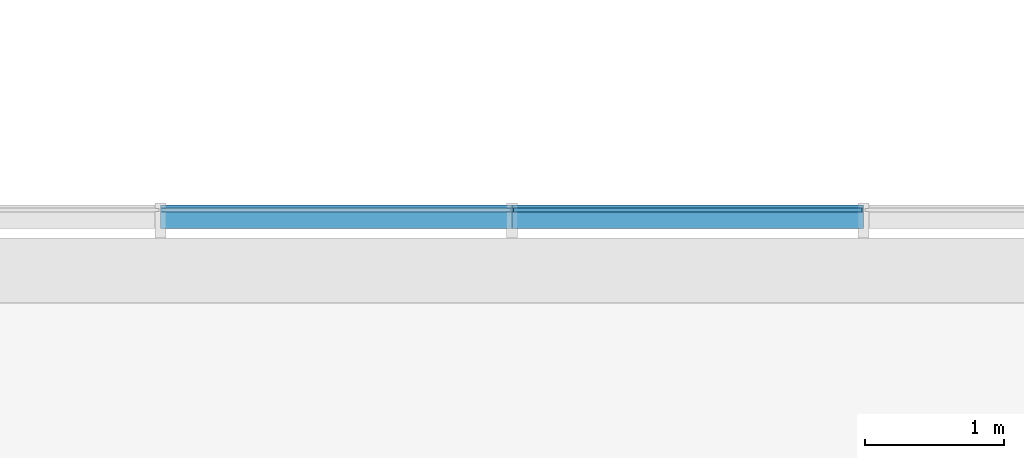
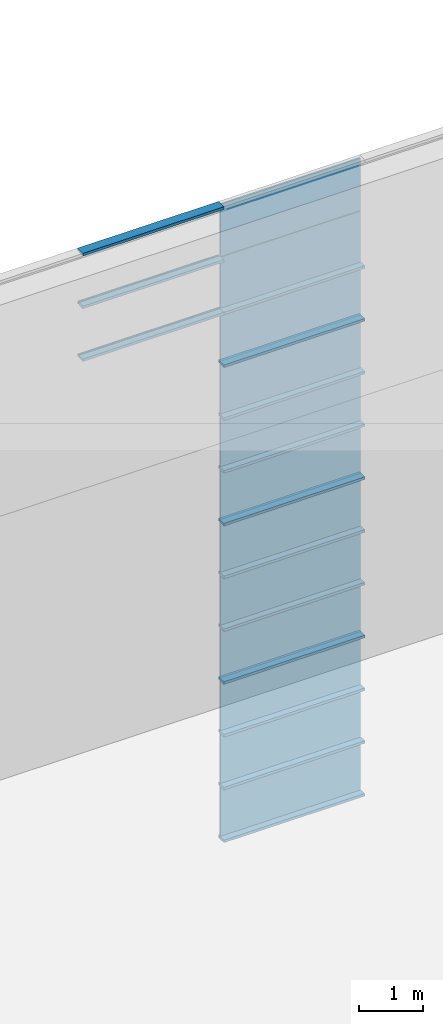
# One storey, part 51 of 105: 29 building element parts, 4 elements without a shape of their own.
"""IFC4 building model written with IfcOpenShell, lengths in millimetres."""

from ifc_helpers import new_model, entity, si_unit, converted_unit, derived_unit, direction, frame, origin_with_axes, place, context, subcontext, project, spatial, triangles, material, element, aggregate, save


model = new_model("IFC4")

# Units and contexts
model_context = context("Model", 3, precision=1e-05, world=origin_with_axes(), true_north=direction((0.0, 1.0)))
body_context = subcontext(model_context, "Body", "Model", "MODEL_VIEW")
ifc_project = project(units=[si_unit("LENGTHUNIT", "METRE", prefix="MILLI"), si_unit("AREAUNIT", "SQUARE_METRE"), si_unit("VOLUMEUNIT", "CUBIC_METRE"), converted_unit("PLANEANGLEUNIT", "DEGREE", entity("IfcLengthMeasure", 0.017453), si_unit("PLANEANGLEUNIT", "RADIAN"), dimensions=[0, 0, 0, 0, 0, 0, 0]), si_unit("SOLIDANGLEUNIT", "STERADIAN"), si_unit("MASSUNIT", "GRAM"), si_unit("TIMEUNIT", "SECOND"), si_unit("THERMODYNAMICTEMPERATUREUNIT", "DEGREE_CELSIUS"), si_unit("LUMINOUSINTENSITYUNIT", "LUMEN"), si_unit("POWERUNIT", "WATT"), derived_unit("THERMALTRANSMITTANCEUNIT", [(si_unit("POWERUNIT", "WATT"), 1), (si_unit("THERMODYNAMICTEMPERATUREUNIT", "KELVIN"), -1), (si_unit("AREAUNIT", "SQUARE_METRE"), -1)])], contexts=[model_context])

# Site, building, storey
site_placement = place(None, origin_with_axes())
site = spatial("IfcSite", under=ifc_project, at=site_placement, Name="Default Site", CompositionType="ELEMENT")
building_placement = place(site_placement, origin_with_axes())
building = spatial("IfcBuilding", under=site, at=building_placement, Name="Default Building", CompositionType="ELEMENT")
storey_placement = place(building_placement, origin_with_axes())
storey = spatial("IfcBuildingStorey", under=building, at=storey_placement, Name="OG - Story", CompositionType="ELEMENT", Elevation=0.0)

# Curtain wall, building element parts
curtain_wall_1_placement = place(storey_placement, origin_with_axes())
curtain_wall_1 = element("IfcCurtainWall", 1, at=curtain_wall_1_placement, inside=storey, Name="Fassade-004", PredefinedType="NOTDEFINED")
ifc_material_1 = material(Name="Normalglas")
building_element_part_1_placement = place(curtain_wall_1_placement, frame((33014.549222, -4389.262838, 0.0), z_axis=(0.0, 0.0, 1.0), x_axis=(1.0, 0.0, 0.0)))
building_element_part_1 = element("IfcBuildingElementPart", 2, at=building_element_part_1_placement, material=ifc_material_1, Name="Normalglas", PredefinedType="NOTDEFINED", context=body_context, shape_type="Tessellation", body=[
    triangles([(31568.947, -14.999, 995.0), (31568.947, 15.0, 995.0), (29062.632, 15.0, 995.0), (29062.632, -14.999, 995.0), (31568.947, -14.999, 5.0), (31568.947, 15.0, 5.0), (29062.632, 15.0, 5.0), (29062.632, -14.999, 5.0)], [[1, 2, 3], [1, 3, 4], [5, 6, 2], [5, 2, 1], [2, 6, 7], [2, 7, 3], [4, 3, 7], [4, 7, 8], [1, 4, 8], [1, 8, 5], [8, 7, 6], [8, 6, 5]], closed=False),
])
building_element_part_2_placement = place(curtain_wall_1_placement, frame((33014.549222, -4389.262838, 0.0), z_axis=(0.0, 0.0, 1.0), x_axis=(1.0, 0.0, 0.0)))
building_element_part_2 = element("IfcBuildingElementPart", 3, at=building_element_part_2_placement, material=ifc_material_1, Name="Normalglas", PredefinedType="NOTDEFINED", context=body_context, shape_type="Tessellation", body=[
    triangles([(31568.947, -14.999, 1995.0), (31568.947, 15.0, 1995.0), (29062.632, 15.0, 1995.0), (29062.632, -14.999, 1995.0), (31568.947, -14.999, 1005.0), (31568.947, 15.0, 1005.0), (29062.632, 15.0, 1005.0), (29062.632, -14.999, 1005.0)], [[1, 2, 3], [1, 3, 4], [5, 6, 2], [5, 2, 1], [2, 6, 7], [2, 7, 3], [4, 3, 7], [4, 7, 8], [1, 4, 8], [1, 8, 5], [8, 7, 6], [8, 6, 5]], closed=False),
])
building_element_part_3_placement = place(curtain_wall_1_placement, frame((33014.549222, -4389.262838, 0.0), z_axis=(0.0, 0.0, 1.0), x_axis=(1.0, 0.0, 0.0)))
building_element_part_3 = element("IfcBuildingElementPart", 4, at=building_element_part_3_placement, material=ifc_material_1, Name="Normalglas", PredefinedType="NOTDEFINED", context=body_context, shape_type="Tessellation", body=[
    triangles([(31568.947, -14.999, 2995.0), (31568.947, 15.0, 2995.0), (29062.632, 15.0, 2995.0), (29062.632, -14.999, 2995.0), (31568.947, -14.999, 2005.0), (31568.947, 15.0, 2005.0), (29062.632, 15.0, 2005.0), (29062.632, -14.999, 2005.0)], [[1, 2, 3], [1, 3, 4], [5, 6, 2], [5, 2, 1], [2, 6, 7], [2, 7, 3], [4, 3, 7], [4, 7, 8], [1, 4, 8], [1, 8, 5], [8, 7, 6], [8, 6, 5]], closed=False),
])
ifc_material_2 = material(Name="Blech")
building_element_part_4_placement = place(curtain_wall_1_placement, frame((33014.549222, -4389.262838, 0.0), z_axis=(0.0, 0.0, 1.0), x_axis=(1.0, 0.0, 0.0)))
building_element_part_4 = element("IfcBuildingElementPart", 5, at=building_element_part_4_placement, material=ifc_material_2, Name="Blech", PredefinedType="NOTDEFINED", context=body_context, shape_type="Tessellation", body=[
    triangles([(31578.947, 35.0, -24.999), (31578.947, 35.0, 25.0), (31578.947, 15.0, 25.0), (31578.947, 15.0, 5.0), (31578.947, -14.999, 5.0), (31578.947, -132.999, 25.0), (31578.947, -132.999, -24.999), (31578.947, -14.999, 25.0), (29052.632, -14.999, 5.0), (29052.632, -14.999, 25.0), (29052.632, -132.999, 25.0), (29052.632, -132.999, -24.999), (29052.632, 35.0, -24.999), (29052.632, 35.0, 25.0), (29052.632, 15.0, 25.0), (29052.632, 15.0, 5.0)], [[1, 2, 3], [1, 3, 4], [1, 4, 5], [1, 5, 6], [1, 6, 7], [8, 6, 5], [5, 9, 10], [5, 10, 8], [10, 11, 6], [10, 6, 8], [11, 12, 7], [11, 7, 6], [12, 13, 1], [12, 1, 7], [13, 14, 2], [13, 2, 1], [3, 2, 14], [3, 14, 15], [15, 16, 4], [15, 4, 3], [4, 16, 9], [4, 9, 5], [15, 16, 13], [13, 16, 9], [13, 9, 11], [11, 9, 10], [13, 11, 12], [15, 13, 14]], closed=False),
])
building_element_part_5_placement = place(curtain_wall_1_placement, frame((33014.549222, -4389.262838, 0.0), z_axis=(0.0, 0.0, 1.0), x_axis=(1.0, 0.0, 0.0)))
building_element_part_5 = element("IfcBuildingElementPart", 6, at=building_element_part_5_placement, material=ifc_material_2, Name="Blech", PredefinedType="NOTDEFINED", context=body_context, shape_type="Tessellation", body=[
    triangles([(31578.947, 35.0, 975.0), (31578.947, 15.0, 975.0), (31578.947, 35.0, 1025.0), (31578.947, 15.0, 995.0), (31578.947, 15.0, 1005.0), (31578.947, -14.999, 995.0), (31578.947, -14.999, 1005.0), (31578.947, -14.999, 1025.0), (31578.947, -14.999, 975.0), (31578.947, -132.999, 975.0), (31578.947, -132.999, 1025.0), (31578.947, 15.0, 1025.0), (29052.632, -14.999, 995.0), (29052.632, 15.0, 995.0), (29052.632, 15.0, 975.0), (29052.632, 35.0, 975.0), (29052.632, 35.0, 1025.0), (29052.632, 15.0, 1025.0), (29052.632, 15.0, 1005.0), (29052.632, -14.999, 1005.0), (29052.632, -14.999, 1025.0), (29052.632, -132.999, 1025.0), (29052.632, -132.999, 975.0), (29052.632, -14.999, 975.0)], [[1, 2, 3], [3, 2, 4], [3, 4, 5], [5, 4, 6], [5, 6, 7], [8, 9, 10], [8, 10, 11], [3, 5, 12], [6, 13, 14], [6, 14, 4], [4, 14, 15], [4, 15, 2], [15, 16, 1], [15, 1, 2], [1, 16, 17], [1, 17, 3], [18, 12, 3], [18, 3, 17], [12, 18, 19], [12, 19, 5], [7, 5, 19], [7, 19, 20], [8, 7, 20], [8, 20, 21], [8, 21, 22], [8, 22, 11], [11, 22, 23], [11, 23, 10], [9, 10, 23], [9, 23, 24], [9, 24, 13], [9, 13, 6], [17, 18, 16], [16, 18, 19], [16, 19, 14], [14, 19, 20], [14, 20, 13], [24, 21, 22], [24, 22, 23], [16, 14, 15]], closed=False),
])
building_element_part_6_placement = place(curtain_wall_1_placement, frame((33014.549222, -4389.262838, 0.0), z_axis=(0.0, 0.0, 1.0), x_axis=(1.0, 0.0, 0.0)))
building_element_part_6 = element("IfcBuildingElementPart", 7, at=building_element_part_6_placement, material=ifc_material_2, Name="Blech", PredefinedType="NOTDEFINED", context=body_context, shape_type="Tessellation", body=[
    triangles([(31578.947, 35.0, 1975.0), (31578.947, 15.0, 1975.0), (31578.947, 35.0, 2025.0), (31578.947, 15.0, 1995.0), (31578.947, 15.0, 2005.0), (31578.947, -14.999, 1995.0), (31578.947, -14.999, 2005.0), (31578.947, -14.999, 2025.0), (31578.947, -14.999, 1975.0), (31578.947, -132.999, 1975.0), (31578.947, -132.999, 2025.0), (31578.947, 15.0, 2025.0), (29052.632, -14.999, 1995.0), (29052.632, 15.0, 1995.0), (29052.632, 15.0, 1975.0), (29052.632, 35.0, 1975.0), (29052.632, 35.0, 2025.0), (29052.632, 15.0, 2025.0), (29052.632, 15.0, 2005.0), (29052.632, -14.999, 2005.0), (29052.632, -14.999, 2025.0), (29052.632, -132.999, 2025.0), (29052.632, -132.999, 1975.0), (29052.632, -14.999, 1975.0)], [[1, 2, 3], [3, 2, 4], [3, 4, 5], [5, 4, 6], [5, 6, 7], [8, 9, 10], [8, 10, 11], [3, 5, 12], [6, 13, 14], [6, 14, 4], [4, 14, 15], [4, 15, 2], [15, 16, 1], [15, 1, 2], [1, 16, 17], [1, 17, 3], [18, 12, 3], [18, 3, 17], [12, 18, 19], [12, 19, 5], [7, 5, 19], [7, 19, 20], [8, 7, 20], [8, 20, 21], [8, 21, 22], [8, 22, 11], [11, 22, 23], [11, 23, 10], [9, 10, 23], [9, 23, 24], [9, 24, 13], [9, 13, 6], [17, 18, 16], [16, 18, 19], [16, 19, 14], [14, 19, 20], [14, 20, 13], [24, 21, 22], [24, 22, 23], [16, 14, 15]], closed=False),
])
building_element_part_7_placement = place(curtain_wall_1_placement, frame((33014.549222, -4389.262838, 0.0), z_axis=(0.0, 0.0, 1.0), x_axis=(1.0, 0.0, 0.0)))
building_element_part_7 = element("IfcBuildingElementPart", 8, at=building_element_part_7_placement, material=ifc_material_2, Name="Blech", PredefinedType="NOTDEFINED", context=body_context, shape_type="Tessellation", body=[
    triangles([(31578.947, 15.0, 2975.0), (31578.947, 15.0, 2995.0), (31578.947, 35.0, 3025.0), (31578.947, -14.999, 2995.0), (31578.947, -132.999, 2975.0), (31578.947, -14.999, 2975.0), (31578.947, -132.999, 3025.0), (31578.947, 35.0, 2975.0), (29052.632, -14.999, 2995.0), (29052.632, 15.0, 2995.0), (29052.632, 15.0, 2975.0), (29052.632, 35.0, 2975.0), (29052.632, 35.0, 3025.0), (29052.632, -132.999, 3025.0), (29052.632, -132.999, 2975.0), (29052.632, -14.999, 2975.0)], [[1, 2, 3], [3, 2, 4], [3, 4, 5], [5, 4, 6], [3, 5, 7], [1, 3, 8], [2, 4, 9], [2, 9, 10], [11, 1, 2], [11, 2, 10], [1, 11, 12], [1, 12, 8], [13, 3, 8], [13, 8, 12], [14, 7, 3], [14, 3, 13], [15, 5, 7], [15, 7, 14], [16, 6, 5], [16, 5, 15], [4, 6, 16], [4, 16, 9], [13, 12, 11], [13, 11, 10], [13, 10, 9], [13, 9, 15], [13, 15, 14], [16, 15, 9]], closed=False),
])
aggregate(curtain_wall_1, [building_element_part_1, building_element_part_2, building_element_part_3, building_element_part_4, building_element_part_5, building_element_part_6, building_element_part_7])

curtain_wall_2_placement = place(storey_placement, origin_with_axes())
curtain_wall_2 = element("IfcCurtainWall", 9, at=curtain_wall_2_placement, inside=storey, Name="Fassade-004", PredefinedType="NOTDEFINED")
building_element_part_8_placement = place(curtain_wall_2_placement, frame((33014.549222, -4389.262838, 3000.0), z_axis=(0.0, 0.0, 1.0), x_axis=(1.0, 0.0, 0.0)))
building_element_part_8 = element("IfcBuildingElementPart", 10, at=building_element_part_8_placement, material=ifc_material_1, Name="Normalglas", PredefinedType="NOTDEFINED", context=body_context, shape_type="Tessellation", body=[
    triangles([(31568.947, -14.999, 995.0), (31568.947, 15.0, 995.0), (29062.632, 15.0, 995.0), (29062.632, -14.999, 995.0), (31568.947, -14.999, 5.0), (31568.947, 15.0, 5.0), (29062.632, 15.0, 5.0), (29062.632, -14.999, 5.0)], [[1, 2, 3], [1, 3, 4], [5, 6, 2], [5, 2, 1], [2, 6, 7], [2, 7, 3], [4, 3, 7], [4, 7, 8], [1, 4, 8], [1, 8, 5], [8, 7, 6], [8, 6, 5]], closed=False),
])
building_element_part_9_placement = place(curtain_wall_2_placement, frame((33014.549222, -4389.262838, 3000.0), z_axis=(0.0, 0.0, 1.0), x_axis=(1.0, 0.0, 0.0)))
building_element_part_9 = element("IfcBuildingElementPart", 11, at=building_element_part_9_placement, material=ifc_material_1, Name="Normalglas", PredefinedType="NOTDEFINED", context=body_context, shape_type="Tessellation", body=[
    triangles([(31568.947, -14.999, 1995.0), (31568.947, 15.0, 1995.0), (29062.632, 15.0, 1995.0), (29062.632, -14.999, 1995.0), (31568.947, -14.999, 1005.0), (31568.947, 15.0, 1005.0), (29062.632, 15.0, 1005.0), (29062.632, -14.999, 1005.0)], [[1, 2, 3], [1, 3, 4], [5, 6, 2], [5, 2, 1], [2, 6, 7], [2, 7, 3], [4, 3, 7], [4, 7, 8], [1, 4, 8], [1, 8, 5], [8, 7, 6], [8, 6, 5]], closed=False),
])
building_element_part_10_placement = place(curtain_wall_2_placement, frame((33014.549222, -4389.262838, 3000.0), z_axis=(0.0, 0.0, 1.0), x_axis=(1.0, 0.0, 0.0)))
building_element_part_10 = element("IfcBuildingElementPart", 12, at=building_element_part_10_placement, material=ifc_material_1, Name="Normalglas", PredefinedType="NOTDEFINED", context=body_context, shape_type="Tessellation", body=[
    triangles([(31568.947, -14.999, 2995.0), (31568.947, 15.0, 2995.0), (29062.632, 15.0, 2995.0), (29062.632, -14.999, 2995.0), (31568.947, -14.999, 2005.0), (31568.947, 15.0, 2005.0), (29062.632, 15.0, 2005.0), (29062.632, -14.999, 2005.0)], [[1, 2, 3], [1, 3, 4], [5, 6, 2], [5, 2, 1], [2, 6, 7], [2, 7, 3], [4, 3, 7], [4, 7, 8], [1, 4, 8], [1, 8, 5], [8, 7, 6], [8, 6, 5]], closed=False),
])
building_element_part_11_placement = place(curtain_wall_2_placement, frame((33014.549222, -4389.262838, 3000.0), z_axis=(0.0, 0.0, 1.0), x_axis=(1.0, 0.0, 0.0)))
building_element_part_11 = element("IfcBuildingElementPart", 13, at=building_element_part_11_placement, material=ifc_material_2, Name="Blech", PredefinedType="NOTDEFINED", context=body_context, shape_type="Tessellation", body=[
    triangles([(31578.947, 35.0, -24.999), (31578.947, 35.0, 25.0), (31578.947, 15.0, 25.0), (31578.947, 15.0, 5.0), (31578.947, -14.999, 5.0), (31578.947, -132.999, 25.0), (31578.947, -132.999, -24.999), (31578.947, -14.999, 25.0), (29052.632, -14.999, 5.0), (29052.632, -14.999, 25.0), (29052.632, -132.999, 25.0), (29052.632, -132.999, -24.999), (29052.632, 35.0, -24.999), (29052.632, 35.0, 25.0), (29052.632, 15.0, 25.0), (29052.632, 15.0, 5.0)], [[1, 2, 3], [1, 3, 4], [1, 4, 5], [1, 5, 6], [1, 6, 7], [8, 6, 5], [5, 9, 10], [5, 10, 8], [10, 11, 6], [10, 6, 8], [11, 12, 7], [11, 7, 6], [12, 13, 1], [12, 1, 7], [13, 14, 2], [13, 2, 1], [3, 2, 14], [3, 14, 15], [15, 16, 4], [15, 4, 3], [4, 16, 9], [4, 9, 5], [15, 16, 13], [13, 16, 9], [13, 9, 11], [11, 9, 10], [13, 11, 12], [15, 13, 14]], closed=False),
])
building_element_part_12_placement = place(curtain_wall_2_placement, frame((33014.549222, -4389.262838, 3000.0), z_axis=(0.0, 0.0, 1.0), x_axis=(1.0, 0.0, 0.0)))
building_element_part_12 = element("IfcBuildingElementPart", 14, at=building_element_part_12_placement, material=ifc_material_2, Name="Blech", PredefinedType="NOTDEFINED", context=body_context, shape_type="Tessellation", body=[
    triangles([(31578.947, 35.0, 975.0), (31578.947, 15.0, 975.0), (31578.947, 35.0, 1025.0), (31578.947, 15.0, 995.0), (31578.947, 15.0, 1005.0), (31578.947, -14.999, 995.0), (31578.947, -14.999, 1005.0), (31578.947, -14.999, 1025.0), (31578.947, -14.999, 975.0), (31578.947, -132.999, 975.0), (31578.947, -132.999, 1025.0), (31578.947, 15.0, 1025.0), (29052.632, -14.999, 995.0), (29052.632, 15.0, 995.0), (29052.632, 15.0, 975.0), (29052.632, 35.0, 975.0), (29052.632, 35.0, 1025.0), (29052.632, 15.0, 1025.0), (29052.632, 15.0, 1005.0), (29052.632, -14.999, 1005.0), (29052.632, -14.999, 1025.0), (29052.632, -132.999, 1025.0), (29052.632, -132.999, 975.0), (29052.632, -14.999, 975.0)], [[1, 2, 3], [3, 2, 4], [3, 4, 5], [5, 4, 6], [5, 6, 7], [8, 9, 10], [8, 10, 11], [3, 5, 12], [6, 13, 14], [6, 14, 4], [4, 14, 15], [4, 15, 2], [15, 16, 1], [15, 1, 2], [1, 16, 17], [1, 17, 3], [18, 12, 3], [18, 3, 17], [12, 18, 19], [12, 19, 5], [7, 5, 19], [7, 19, 20], [8, 7, 20], [8, 20, 21], [8, 21, 22], [8, 22, 11], [11, 22, 23], [11, 23, 10], [9, 10, 23], [9, 23, 24], [9, 24, 13], [9, 13, 6], [17, 18, 16], [16, 18, 19], [16, 19, 14], [14, 19, 20], [14, 20, 13], [24, 21, 22], [24, 22, 23], [16, 14, 15]], closed=False),
])
building_element_part_13_placement = place(curtain_wall_2_placement, frame((33014.549222, -4389.262838, 3000.0), z_axis=(0.0, 0.0, 1.0), x_axis=(1.0, 0.0, 0.0)))
building_element_part_13 = element("IfcBuildingElementPart", 15, at=building_element_part_13_placement, material=ifc_material_2, Name="Blech", PredefinedType="NOTDEFINED", context=body_context, shape_type="Tessellation", body=[
    triangles([(31578.947, 35.0, 1975.0), (31578.947, 15.0, 1975.0), (31578.947, 35.0, 2025.0), (31578.947, 15.0, 1995.0), (31578.947, 15.0, 2005.0), (31578.947, -14.999, 1995.0), (31578.947, -14.999, 2005.0), (31578.947, -14.999, 2025.0), (31578.947, -14.999, 1975.0), (31578.947, -132.999, 1975.0), (31578.947, -132.999, 2025.0), (31578.947, 15.0, 2025.0), (29052.632, -14.999, 1995.0), (29052.632, 15.0, 1995.0), (29052.632, 15.0, 1975.0), (29052.632, 35.0, 1975.0), (29052.632, 35.0, 2025.0), (29052.632, 15.0, 2025.0), (29052.632, 15.0, 2005.0), (29052.632, -14.999, 2005.0), (29052.632, -14.999, 2025.0), (29052.632, -132.999, 2025.0), (29052.632, -132.999, 1975.0), (29052.632, -14.999, 1975.0)], [[1, 2, 3], [3, 2, 4], [3, 4, 5], [5, 4, 6], [5, 6, 7], [8, 9, 10], [8, 10, 11], [3, 5, 12], [6, 13, 14], [6, 14, 4], [4, 14, 15], [4, 15, 2], [15, 16, 1], [15, 1, 2], [1, 16, 17], [1, 17, 3], [18, 12, 3], [18, 3, 17], [12, 18, 19], [12, 19, 5], [7, 5, 19], [7, 19, 20], [8, 7, 20], [8, 20, 21], [8, 21, 22], [8, 22, 11], [11, 22, 23], [11, 23, 10], [9, 10, 23], [9, 23, 24], [9, 24, 13], [9, 13, 6], [17, 18, 16], [16, 18, 19], [16, 19, 14], [14, 19, 20], [14, 20, 13], [24, 21, 22], [24, 22, 23], [16, 14, 15]], closed=False),
])
building_element_part_14_placement = place(curtain_wall_2_placement, frame((33014.549222, -4389.262838, 3000.0), z_axis=(0.0, 0.0, 1.0), x_axis=(1.0, 0.0, 0.0)))
building_element_part_14 = element("IfcBuildingElementPart", 16, at=building_element_part_14_placement, material=ifc_material_2, Name="Blech", PredefinedType="NOTDEFINED", context=body_context, shape_type="Tessellation", body=[
    triangles([(31578.947, 15.0, 2975.0), (31578.947, 15.0, 2995.0), (31578.947, 35.0, 3025.0), (31578.947, -14.999, 2995.0), (31578.947, -132.999, 2975.0), (31578.947, -14.999, 2975.0), (31578.947, -132.999, 3025.0), (31578.947, 35.0, 2975.0), (29052.632, -14.999, 2995.0), (29052.632, 15.0, 2995.0), (29052.632, 15.0, 2975.0), (29052.632, 35.0, 2975.0), (29052.632, 35.0, 3025.0), (29052.632, -132.999, 3025.0), (29052.632, -132.999, 2975.0), (29052.632, -14.999, 2975.0)], [[1, 2, 3], [3, 2, 4], [3, 4, 5], [5, 4, 6], [3, 5, 7], [1, 3, 8], [2, 4, 9], [2, 9, 10], [11, 1, 2], [11, 2, 10], [1, 11, 12], [1, 12, 8], [13, 3, 8], [13, 8, 12], [14, 7, 3], [14, 3, 13], [15, 5, 7], [15, 7, 14], [16, 6, 5], [16, 5, 15], [4, 6, 16], [4, 16, 9], [13, 12, 11], [13, 11, 10], [13, 10, 9], [13, 9, 15], [13, 15, 14], [16, 15, 9]], closed=False),
])
aggregate(curtain_wall_2, [building_element_part_8, building_element_part_9, building_element_part_10, building_element_part_11, building_element_part_12, building_element_part_13, building_element_part_14])

curtain_wall_3_placement = place(storey_placement, origin_with_axes())
curtain_wall_3 = element("IfcCurtainWall", 17, at=curtain_wall_3_placement, inside=storey, Name="Fassade-004", PredefinedType="NOTDEFINED")
building_element_part_15_placement = place(curtain_wall_3_placement, frame((33014.549222, -4389.262838, 6000.0), z_axis=(0.0, 0.0, 1.0), x_axis=(1.0, 0.0, 0.0)))
building_element_part_15 = element("IfcBuildingElementPart", 18, at=building_element_part_15_placement, material=ifc_material_1, Name="Normalglas", PredefinedType="NOTDEFINED", context=body_context, shape_type="Tessellation", body=[
    triangles([(31568.947, -14.999, 995.0), (31568.947, 15.0, 995.0), (29062.632, 15.0, 995.0), (29062.632, -14.999, 995.0), (31568.947, -14.999, 5.0), (31568.947, 15.0, 5.0), (29062.632, 15.0, 5.0), (29062.632, -14.999, 5.0)], [[1, 2, 3], [1, 3, 4], [5, 6, 2], [5, 2, 1], [2, 6, 7], [2, 7, 3], [4, 3, 7], [4, 7, 8], [1, 4, 8], [1, 8, 5], [8, 7, 6], [8, 6, 5]], closed=False),
])
building_element_part_16_placement = place(curtain_wall_3_placement, frame((33014.549222, -4389.262838, 6000.0), z_axis=(0.0, 0.0, 1.0), x_axis=(1.0, 0.0, 0.0)))
building_element_part_16 = element("IfcBuildingElementPart", 19, at=building_element_part_16_placement, material=ifc_material_1, Name="Normalglas", PredefinedType="NOTDEFINED", context=body_context, shape_type="Tessellation", body=[
    triangles([(31568.947, -14.999, 1995.0), (31568.947, 15.0, 1995.0), (29062.632, 15.0, 1995.0), (29062.632, -14.999, 1995.0), (31568.947, -14.999, 1005.0), (31568.947, 15.0, 1005.0), (29062.632, 15.0, 1005.0), (29062.632, -14.999, 1005.0)], [[1, 2, 3], [1, 3, 4], [5, 6, 2], [5, 2, 1], [2, 6, 7], [2, 7, 3], [4, 3, 7], [4, 7, 8], [1, 4, 8], [1, 8, 5], [8, 7, 6], [8, 6, 5]], closed=False),
])
building_element_part_17_placement = place(curtain_wall_3_placement, frame((33014.549222, -4389.262838, 6000.0), z_axis=(0.0, 0.0, 1.0), x_axis=(1.0, 0.0, 0.0)))
building_element_part_17 = element("IfcBuildingElementPart", 20, at=building_element_part_17_placement, material=ifc_material_1, Name="Normalglas", PredefinedType="NOTDEFINED", context=body_context, shape_type="Tessellation", body=[
    triangles([(31568.947, -14.999, 2995.0), (31568.947, 15.0, 2995.0), (29062.632, 15.0, 2995.0), (29062.632, -14.999, 2995.0), (31568.947, -14.999, 2005.0), (31568.947, 15.0, 2005.0), (29062.632, 15.0, 2005.0), (29062.632, -14.999, 2005.0)], [[1, 2, 3], [1, 3, 4], [5, 6, 2], [5, 2, 1], [2, 6, 7], [2, 7, 3], [4, 3, 7], [4, 7, 8], [1, 4, 8], [1, 8, 5], [8, 7, 6], [8, 6, 5]], closed=False),
])
building_element_part_18_placement = place(curtain_wall_3_placement, frame((33014.549222, -4389.262838, 6000.0), z_axis=(0.0, 0.0, 1.0), x_axis=(1.0, 0.0, 0.0)))
building_element_part_18 = element("IfcBuildingElementPart", 21, at=building_element_part_18_placement, material=ifc_material_2, Name="Blech", PredefinedType="NOTDEFINED", context=body_context, shape_type="Tessellation", body=[
    triangles([(31578.947, 35.0, -24.999), (31578.947, 35.0, 25.0), (31578.947, 15.0, 25.0), (31578.947, 15.0, 5.0), (31578.947, -14.999, 5.0), (31578.947, -132.999, 25.0), (31578.947, -132.999, -24.999), (31578.947, -14.999, 25.0), (29052.632, -14.999, 5.0), (29052.632, -14.999, 25.0), (29052.632, -132.999, 25.0), (29052.632, -132.999, -24.999), (29052.632, 35.0, -24.999), (29052.632, 35.0, 25.0), (29052.632, 15.0, 25.0), (29052.632, 15.0, 5.0)], [[1, 2, 3], [1, 3, 4], [1, 4, 5], [1, 5, 6], [1, 6, 7], [8, 6, 5], [5, 9, 10], [5, 10, 8], [10, 11, 6], [10, 6, 8], [11, 12, 7], [11, 7, 6], [12, 13, 1], [12, 1, 7], [13, 14, 2], [13, 2, 1], [3, 2, 14], [3, 14, 15], [15, 16, 4], [15, 4, 3], [4, 16, 9], [4, 9, 5], [15, 16, 13], [13, 16, 9], [13, 9, 11], [11, 9, 10], [13, 11, 12], [15, 13, 14]], closed=False),
])
building_element_part_19_placement = place(curtain_wall_3_placement, frame((33014.549222, -4389.262838, 6000.0), z_axis=(0.0, 0.0, 1.0), x_axis=(1.0, 0.0, 0.0)))
building_element_part_19 = element("IfcBuildingElementPart", 22, at=building_element_part_19_placement, material=ifc_material_2, Name="Blech", PredefinedType="NOTDEFINED", context=body_context, shape_type="Tessellation", body=[
    triangles([(31578.947, 35.0, 975.0), (31578.947, 15.0, 975.0), (31578.947, 35.0, 1025.0), (31578.947, 15.0, 995.0), (31578.947, 15.0, 1005.0), (31578.947, -14.999, 995.0), (31578.947, -14.999, 1005.0), (31578.947, -14.999, 1025.0), (31578.947, -14.999, 975.0), (31578.947, -132.999, 975.0), (31578.947, -132.999, 1025.0), (31578.947, 15.0, 1025.0), (29052.632, -14.999, 995.0), (29052.632, 15.0, 995.0), (29052.632, 15.0, 975.0), (29052.632, 35.0, 975.0), (29052.632, 35.0, 1025.0), (29052.632, 15.0, 1025.0), (29052.632, 15.0, 1005.0), (29052.632, -14.999, 1005.0), (29052.632, -14.999, 1025.0), (29052.632, -132.999, 1025.0), (29052.632, -132.999, 975.0), (29052.632, -14.999, 975.0)], [[1, 2, 3], [3, 2, 4], [3, 4, 5], [5, 4, 6], [5, 6, 7], [8, 9, 10], [8, 10, 11], [3, 5, 12], [6, 13, 14], [6, 14, 4], [4, 14, 15], [4, 15, 2], [15, 16, 1], [15, 1, 2], [1, 16, 17], [1, 17, 3], [18, 12, 3], [18, 3, 17], [12, 18, 19], [12, 19, 5], [7, 5, 19], [7, 19, 20], [8, 7, 20], [8, 20, 21], [8, 21, 22], [8, 22, 11], [11, 22, 23], [11, 23, 10], [9, 10, 23], [9, 23, 24], [9, 24, 13], [9, 13, 6], [17, 18, 16], [16, 18, 19], [16, 19, 14], [14, 19, 20], [14, 20, 13], [24, 21, 22], [24, 22, 23], [16, 14, 15]], closed=False),
])
building_element_part_20_placement = place(curtain_wall_3_placement, frame((33014.549222, -4389.262838, 6000.0), z_axis=(0.0, 0.0, 1.0), x_axis=(1.0, 0.0, 0.0)))
building_element_part_20 = element("IfcBuildingElementPart", 23, at=building_element_part_20_placement, material=ifc_material_2, Name="Blech", PredefinedType="NOTDEFINED", context=body_context, shape_type="Tessellation", body=[
    triangles([(31578.947, 35.0, 1975.0), (31578.947, 15.0, 1975.0), (31578.947, 35.0, 2025.0), (31578.947, 15.0, 1995.0), (31578.947, 15.0, 2005.0), (31578.947, -14.999, 1995.0), (31578.947, -14.999, 2005.0), (31578.947, -14.999, 2025.0), (31578.947, -14.999, 1975.0), (31578.947, -132.999, 1975.0), (31578.947, -132.999, 2025.0), (31578.947, 15.0, 2025.0), (29052.632, -14.999, 1995.0), (29052.632, 15.0, 1995.0), (29052.632, 15.0, 1975.0), (29052.632, 35.0, 1975.0), (29052.632, 35.0, 2025.0), (29052.632, 15.0, 2025.0), (29052.632, 15.0, 2005.0), (29052.632, -14.999, 2005.0), (29052.632, -14.999, 2025.0), (29052.632, -132.999, 2025.0), (29052.632, -132.999, 1975.0), (29052.632, -14.999, 1975.0)], [[1, 2, 3], [3, 2, 4], [3, 4, 5], [5, 4, 6], [5, 6, 7], [8, 9, 10], [8, 10, 11], [3, 5, 12], [6, 13, 14], [6, 14, 4], [4, 14, 15], [4, 15, 2], [15, 16, 1], [15, 1, 2], [1, 16, 17], [1, 17, 3], [18, 12, 3], [18, 3, 17], [12, 18, 19], [12, 19, 5], [7, 5, 19], [7, 19, 20], [8, 7, 20], [8, 20, 21], [8, 21, 22], [8, 22, 11], [11, 22, 23], [11, 23, 10], [9, 10, 23], [9, 23, 24], [9, 24, 13], [9, 13, 6], [17, 18, 16], [16, 18, 19], [16, 19, 14], [14, 19, 20], [14, 20, 13], [24, 21, 22], [24, 22, 23], [16, 14, 15]], closed=False),
])
building_element_part_21_placement = place(curtain_wall_3_placement, frame((33014.549222, -4389.262838, 6000.0), z_axis=(0.0, 0.0, 1.0), x_axis=(1.0, 0.0, 0.0)))
building_element_part_21 = element("IfcBuildingElementPart", 24, at=building_element_part_21_placement, material=ifc_material_2, Name="Blech", PredefinedType="NOTDEFINED", context=body_context, shape_type="Tessellation", body=[
    triangles([(31578.947, 15.0, 2975.0), (31578.947, 15.0, 2995.0), (31578.947, 35.0, 3025.0), (31578.947, -14.999, 2995.0), (31578.947, -132.999, 2975.0), (31578.947, -14.999, 2975.0), (31578.947, -132.999, 3025.0), (31578.947, 35.0, 2975.0), (29052.632, -14.999, 2995.0), (29052.632, 15.0, 2995.0), (29052.632, 15.0, 2975.0), (29052.632, 35.0, 2975.0), (29052.632, 35.0, 3025.0), (29052.632, -132.999, 3025.0), (29052.632, -132.999, 2975.0), (29052.632, -14.999, 2975.0)], [[1, 2, 3], [3, 2, 4], [3, 4, 5], [5, 4, 6], [3, 5, 7], [1, 3, 8], [2, 4, 9], [2, 9, 10], [11, 1, 2], [11, 2, 10], [1, 11, 12], [1, 12, 8], [13, 3, 8], [13, 8, 12], [14, 7, 3], [14, 3, 13], [15, 5, 7], [15, 7, 14], [16, 6, 5], [16, 5, 15], [4, 6, 16], [4, 16, 9], [13, 12, 11], [13, 11, 10], [13, 10, 9], [13, 9, 15], [13, 15, 14], [16, 15, 9]], closed=False),
])
aggregate(curtain_wall_3, [building_element_part_15, building_element_part_16, building_element_part_17, building_element_part_18, building_element_part_19, building_element_part_20, building_element_part_21])

curtain_wall_4_placement = place(storey_placement, origin_with_axes())
curtain_wall_4 = element("IfcCurtainWall", 25, at=curtain_wall_4_placement, inside=storey, Name="Fassade-004", PredefinedType="NOTDEFINED")
building_element_part_22_placement = place(curtain_wall_4_placement, frame((33014.549222, -4389.262838, 9000.0), z_axis=(0.0, 0.0, 1.0), x_axis=(1.0, 0.0, 0.0)))
building_element_part_22 = element("IfcBuildingElementPart", 26, at=building_element_part_22_placement, material=ifc_material_1, Name="Normalglas", PredefinedType="NOTDEFINED", context=body_context, shape_type="Tessellation", body=[
    triangles([(31568.947, -14.999, 995.0), (31568.947, 15.0, 995.0), (29062.632, 15.0, 995.0), (29062.632, -14.999, 995.0), (31568.947, -14.999, 5.0), (31568.947, 15.0, 5.0), (29062.632, 15.0, 5.0), (29062.632, -14.999, 5.0)], [[1, 2, 3], [1, 3, 4], [5, 6, 2], [5, 2, 1], [2, 6, 7], [2, 7, 3], [4, 3, 7], [4, 7, 8], [1, 4, 8], [1, 8, 5], [8, 7, 6], [8, 6, 5]], closed=False),
])
building_element_part_23_placement = place(curtain_wall_4_placement, frame((33014.549222, -4389.262838, 9000.0), z_axis=(0.0, 0.0, 1.0), x_axis=(1.0, 0.0, 0.0)))
building_element_part_23 = element("IfcBuildingElementPart", 27, at=building_element_part_23_placement, material=ifc_material_1, Name="Normalglas", PredefinedType="NOTDEFINED", context=body_context, shape_type="Tessellation", body=[
    triangles([(31568.947, -14.999, 1995.0), (31568.947, 15.0, 1995.0), (29062.632, 15.0, 1995.0), (29062.632, -14.999, 1995.0), (31568.947, -14.999, 1005.0), (31568.947, 15.0, 1005.0), (29062.632, 15.0, 1005.0), (29062.632, -14.999, 1005.0)], [[1, 2, 3], [1, 3, 4], [5, 6, 2], [5, 2, 1], [2, 6, 7], [2, 7, 3], [4, 3, 7], [4, 7, 8], [1, 4, 8], [1, 8, 5], [8, 7, 6], [8, 6, 5]], closed=False),
])
building_element_part_24_placement = place(curtain_wall_4_placement, frame((33014.549222, -4389.262838, 9000.0), z_axis=(0.0, 0.0, 1.0), x_axis=(1.0, 0.0, 0.0)))
building_element_part_24 = element("IfcBuildingElementPart", 28, at=building_element_part_24_placement, material=ifc_material_1, Name="Normalglas", PredefinedType="NOTDEFINED", context=body_context, shape_type="Tessellation", body=[
    triangles([(31568.947, -14.999, 2995.0), (31568.947, 15.0, 2995.0), (29062.632, 15.0, 2995.0), (29062.632, -14.999, 2995.0), (31568.947, -14.999, 2005.0), (31568.947, 15.0, 2005.0), (29062.632, 15.0, 2005.0), (29062.632, -14.999, 2005.0)], [[1, 2, 3], [1, 3, 4], [5, 6, 2], [5, 2, 1], [2, 6, 7], [2, 7, 3], [4, 3, 7], [4, 7, 8], [1, 4, 8], [1, 8, 5], [8, 7, 6], [8, 6, 5]], closed=False),
])
building_element_part_25_placement = place(curtain_wall_4_placement, frame((33014.549222, -4389.262838, 9000.0), z_axis=(0.0, 0.0, 1.0), x_axis=(1.0, 0.0, 0.0)))
building_element_part_25 = element("IfcBuildingElementPart", 29, at=building_element_part_25_placement, material=ifc_material_2, Name="Blech", PredefinedType="NOTDEFINED", context=body_context, shape_type="Tessellation", body=[
    triangles([(31578.947, 35.0, -24.999), (31578.947, 35.0, 25.0), (31578.947, 15.0, 25.0), (31578.947, 15.0, 5.0), (31578.947, -14.999, 5.0), (31578.947, -132.999, 25.0), (31578.947, -132.999, -24.999), (31578.947, -14.999, 25.0), (29052.632, -14.999, 5.0), (29052.632, -14.999, 25.0), (29052.632, -132.999, 25.0), (29052.632, -132.999, -24.999), (29052.632, 35.0, -24.999), (29052.632, 35.0, 25.0), (29052.632, 15.0, 25.0), (29052.632, 15.0, 5.0)], [[1, 2, 3], [1, 3, 4], [1, 4, 5], [1, 5, 6], [1, 6, 7], [8, 6, 5], [5, 9, 10], [5, 10, 8], [10, 11, 6], [10, 6, 8], [11, 12, 7], [11, 7, 6], [12, 13, 1], [12, 1, 7], [13, 14, 2], [13, 2, 1], [3, 2, 14], [3, 14, 15], [15, 16, 4], [15, 4, 3], [4, 16, 9], [4, 9, 5], [15, 16, 13], [13, 16, 9], [13, 9, 11], [11, 9, 10], [13, 11, 12], [15, 13, 14]], closed=False),
])
building_element_part_26_placement = place(curtain_wall_4_placement, frame((33014.549222, -4389.262838, 9000.0), z_axis=(0.0, 0.0, 1.0), x_axis=(1.0, 0.0, 0.0)))
building_element_part_26 = element("IfcBuildingElementPart", 30, at=building_element_part_26_placement, material=ifc_material_2, Name="Blech", PredefinedType="NOTDEFINED", context=body_context, shape_type="Tessellation", body=[
    triangles([(29052.632, 35.0, 975.0), (29052.632, 15.0, 975.0), (29052.632, 35.0, 1025.0), (29052.632, 15.0, 995.0), (29052.632, 15.0, 1005.0), (29052.632, -14.999, 995.0), (29052.632, -14.999, 1005.0), (29052.632, -14.999, 1025.0), (29052.632, -14.999, 975.0), (29052.632, -132.999, 975.0), (29052.632, -132.999, 1025.0), (29052.632, 15.0, 1025.0), (26526.316, -14.999, 995.0), (26526.316, 15.0, 995.0), (26526.316, 15.0, 975.0), (26526.316, 35.0, 975.0), (26526.316, 35.0, 1025.0), (26526.316, 15.0, 1025.0), (26526.316, 15.0, 1005.0), (26526.316, -14.999, 1005.0), (26526.316, -14.999, 1025.0), (26526.316, -132.999, 1025.0), (26526.316, -132.999, 975.0), (26526.316, -14.999, 975.0)], [[1, 2, 3], [3, 2, 4], [3, 4, 5], [5, 4, 6], [5, 6, 7], [8, 9, 10], [8, 10, 11], [3, 5, 12], [6, 13, 14], [6, 14, 4], [4, 14, 15], [4, 15, 2], [15, 16, 1], [15, 1, 2], [1, 16, 17], [1, 17, 3], [18, 12, 3], [18, 3, 17], [12, 18, 19], [12, 19, 5], [7, 5, 19], [7, 19, 20], [8, 7, 20], [8, 20, 21], [8, 21, 22], [8, 22, 11], [11, 22, 23], [11, 23, 10], [9, 10, 23], [9, 23, 24], [9, 24, 13], [9, 13, 6], [17, 18, 16], [16, 18, 19], [16, 19, 14], [14, 19, 20], [14, 20, 13], [24, 21, 22], [24, 22, 23], [16, 14, 15]], closed=False),
])
building_element_part_27_placement = place(curtain_wall_4_placement, frame((33014.549222, -4389.262838, 9000.0), z_axis=(0.0, 0.0, 1.0), x_axis=(1.0, 0.0, 0.0)))
building_element_part_27 = element("IfcBuildingElementPart", 31, at=building_element_part_27_placement, material=ifc_material_2, Name="Blech", PredefinedType="NOTDEFINED", context=body_context, shape_type="Tessellation", body=[
    triangles([(31578.947, 35.0, 975.0), (31578.947, 15.0, 975.0), (31578.947, 35.0, 1025.0), (31578.947, 15.0, 995.0), (31578.947, 15.0, 1005.0), (31578.947, -14.999, 995.0), (31578.947, -14.999, 1005.0), (31578.947, -14.999, 1025.0), (31578.947, -14.999, 975.0), (31578.947, -132.999, 975.0), (31578.947, -132.999, 1025.0), (31578.947, 15.0, 1025.0), (29052.632, -14.999, 995.0), (29052.632, 15.0, 995.0), (29052.632, 15.0, 975.0), (29052.632, 35.0, 975.0), (29052.632, 35.0, 1025.0), (29052.632, 15.0, 1025.0), (29052.632, 15.0, 1005.0), (29052.632, -14.999, 1005.0), (29052.632, -14.999, 1025.0), (29052.632, -132.999, 1025.0), (29052.632, -132.999, 975.0), (29052.632, -14.999, 975.0)], [[1, 2, 3], [3, 2, 4], [3, 4, 5], [5, 4, 6], [5, 6, 7], [8, 9, 10], [8, 10, 11], [3, 5, 12], [6, 13, 14], [6, 14, 4], [4, 14, 15], [4, 15, 2], [15, 16, 1], [15, 1, 2], [1, 16, 17], [1, 17, 3], [18, 12, 3], [18, 3, 17], [12, 18, 19], [12, 19, 5], [7, 5, 19], [7, 19, 20], [8, 7, 20], [8, 20, 21], [8, 21, 22], [8, 22, 11], [11, 22, 23], [11, 23, 10], [9, 10, 23], [9, 23, 24], [9, 24, 13], [9, 13, 6], [17, 18, 16], [16, 18, 19], [16, 19, 14], [14, 19, 20], [14, 20, 13], [24, 21, 22], [24, 22, 23], [16, 14, 15]], closed=False),
])
building_element_part_28_placement = place(curtain_wall_4_placement, frame((33014.549222, -4389.262838, 9000.0), z_axis=(0.0, 0.0, 1.0), x_axis=(1.0, 0.0, 0.0)))
building_element_part_28 = element("IfcBuildingElementPart", 32, at=building_element_part_28_placement, material=ifc_material_2, Name="Blech", PredefinedType="NOTDEFINED", context=body_context, shape_type="Tessellation", body=[
    triangles([(29052.632, 35.0, 1975.0), (29052.632, 15.0, 1975.0), (29052.632, 35.0, 2025.0), (29052.632, 15.0, 1995.0), (29052.632, 15.0, 2005.0), (29052.632, -14.999, 1995.0), (29052.632, -14.999, 2005.0), (29052.632, -14.999, 2025.0), (29052.632, -14.999, 1975.0), (29052.632, -132.999, 1975.0), (29052.632, -132.999, 2025.0), (29052.632, 15.0, 2025.0), (26526.316, -14.999, 1995.0), (26526.316, 15.0, 1995.0), (26526.316, 15.0, 1975.0), (26526.316, 35.0, 1975.0), (26526.316, 35.0, 2025.0), (26526.316, 15.0, 2025.0), (26526.316, 15.0, 2005.0), (26526.316, -14.999, 2005.0), (26526.316, -14.999, 2025.0), (26526.316, -132.999, 2025.0), (26526.316, -132.999, 1975.0), (26526.316, -14.999, 1975.0)], [[1, 2, 3], [3, 2, 4], [3, 4, 5], [5, 4, 6], [5, 6, 7], [8, 9, 10], [8, 10, 11], [3, 5, 12], [6, 13, 14], [6, 14, 4], [4, 14, 15], [4, 15, 2], [15, 16, 1], [15, 1, 2], [1, 16, 17], [1, 17, 3], [18, 12, 3], [18, 3, 17], [12, 18, 19], [12, 19, 5], [7, 5, 19], [7, 19, 20], [8, 7, 20], [8, 20, 21], [8, 21, 22], [8, 22, 11], [11, 22, 23], [11, 23, 10], [9, 10, 23], [9, 23, 24], [9, 24, 13], [9, 13, 6], [17, 18, 16], [16, 18, 19], [16, 19, 14], [14, 19, 20], [14, 20, 13], [24, 21, 22], [24, 22, 23], [16, 14, 15]], closed=False),
])
building_element_part_29_placement = place(curtain_wall_4_placement, frame((33014.549222, -4389.262838, 9000.0), z_axis=(0.0, 0.0, 1.0), x_axis=(1.0, 0.0, 0.0)))
building_element_part_29 = element("IfcBuildingElementPart", 33, at=building_element_part_29_placement, material=ifc_material_2, Name="Blech", PredefinedType="NOTDEFINED", context=body_context, shape_type="Tessellation", body=[
    triangles([(29052.632, 15.0, 2975.0), (29052.632, 15.0, 2995.0), (29052.632, 35.0, 3025.0), (29052.632, -14.999, 2995.0), (29052.632, -132.999, 2975.0), (29052.632, -14.999, 2975.0), (29052.632, -132.999, 3025.0), (29052.632, 35.0, 2975.0), (26526.316, -14.999, 2995.0), (26526.316, 15.0, 2995.0), (26526.316, 15.0, 2975.0), (26526.316, 35.0, 2975.0), (26526.316, 35.0, 3025.0), (26526.316, -132.999, 3025.0), (26526.316, -132.999, 2975.0), (26526.316, -14.999, 2975.0)], [[1, 2, 3], [3, 2, 4], [3, 4, 5], [5, 4, 6], [3, 5, 7], [1, 3, 8], [2, 4, 9], [2, 9, 10], [11, 1, 2], [11, 2, 10], [1, 11, 12], [1, 12, 8], [13, 3, 8], [13, 8, 12], [14, 7, 3], [14, 3, 13], [15, 5, 7], [15, 7, 14], [16, 6, 5], [16, 5, 15], [4, 6, 16], [4, 16, 9], [13, 12, 11], [13, 11, 10], [13, 10, 9], [13, 9, 15], [13, 15, 14], [16, 15, 9]], closed=False),
])
aggregate(curtain_wall_4, [building_element_part_22, building_element_part_23, building_element_part_24, building_element_part_25, building_element_part_26, building_element_part_27, building_element_part_28, building_element_part_29])

save(model, "model.ifc")
